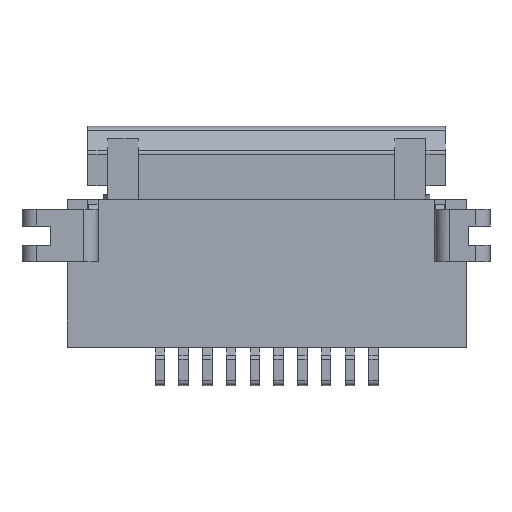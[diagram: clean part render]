
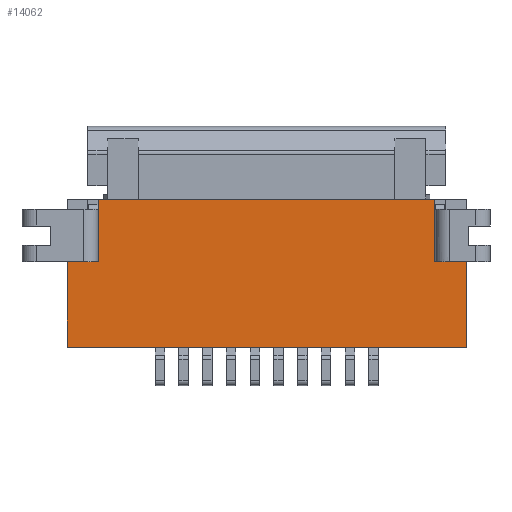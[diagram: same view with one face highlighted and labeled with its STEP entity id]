
A CAD part, front view. The second image highlights one B-rep face of the part: STEP entity #14062.
In plain terms, the highlighted planar face has unit normal (0, -1, 0).
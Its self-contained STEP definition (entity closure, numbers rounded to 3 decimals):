
#28=DIRECTION('',(-1.,0.,0.));
#29=VECTOR('',#28,0.516);
#30=CARTESIAN_POINT('',(0.,-1.55,-1.3));
#31=LINE('',#30,#29);
#32=DIRECTION('',(0.,0.,-1.));
#33=VECTOR('',#32,1.8);
#34=CARTESIAN_POINT('',(0.,-1.55,-1.3));
#35=LINE('',#34,#33);
#36=DIRECTION('',(-1.,0.,0.));
#37=VECTOR('',#36,8.4);
#38=CARTESIAN_POINT('',(0.,-1.55,-3.1));
#39=LINE('',#38,#37);
#40=DIRECTION('',(0.,0.,1.));
#41=VECTOR('',#40,1.8);
#42=CARTESIAN_POINT('',(-8.4,-1.55,-3.1));
#43=LINE('',#42,#41);
#44=DIRECTION('',(1.,0.,0.));
#45=VECTOR('',#44,0.35);
#46=CARTESIAN_POINT('',(-8.4,-1.55,-1.3));
#47=LINE('',#46,#45);
#48=DIRECTION('',(1.,0.,0.));
#49=VECTOR('',#48,0.166);
#50=CARTESIAN_POINT('',(-8.05,-1.55,-1.3));
#51=LINE('',#50,#49);
#52=DIRECTION('',(1.,0.,0.));
#53=VECTOR('',#52,0.154);
#54=CARTESIAN_POINT('',(-7.884,-1.55,-1.3));
#55=LINE('',#54,#53);
#56=DIRECTION('',(0.,0.,1.));
#57=VECTOR('',#56,1.3);
#58=CARTESIAN_POINT('',(-7.73,-1.55,-1.3));
#59=LINE('',#58,#57);
#60=DIRECTION('',(1.,0.,0.));
#61=VECTOR('',#60,7.06);
#62=CARTESIAN_POINT('',(-7.73,-1.55,0.));
#63=LINE('',#62,#61);
#64=DIRECTION('',(0.,0.,-1.));
#65=VECTOR('',#64,1.3);
#66=CARTESIAN_POINT('',(-0.67,-1.55,0.));
#67=LINE('',#66,#65);
#68=DIRECTION('',(1.,0.,0.));
#69=VECTOR('',#68,0.154);
#70=CARTESIAN_POINT('',(-0.67,-1.55,-1.3));
#71=LINE('',#70,#69);
#10674=CARTESIAN_POINT('',(0.,-1.55,-3.1));
#10675=VERTEX_POINT('',#10674);
#10681=CARTESIAN_POINT('',(-0.67,-1.55,-1.3));
#10683=VERTEX_POINT('',#10681);
#10688=CARTESIAN_POINT('',(-7.73,-1.55,-1.3));
#10690=VERTEX_POINT('',#10688);
#10724=CARTESIAN_POINT('',(-0.67,-1.55,0.));
#10725=VERTEX_POINT('',#10724);
#10744=CARTESIAN_POINT('',(-7.73,-1.55,0.));
#10745=VERTEX_POINT('',#10744);
#11232=CARTESIAN_POINT('',(-8.4,-1.55,-3.1));
#11233=VERTEX_POINT('',#11232);
#13917=CARTESIAN_POINT('',(-7.884,-1.55,-1.3));
#13919=VERTEX_POINT('',#13917);
#13938=CARTESIAN_POINT('',(-8.4,-1.55,-1.3));
#13939=VERTEX_POINT('',#13938);
#13940=CARTESIAN_POINT('',(-8.05,-1.55,-1.3));
#13941=VERTEX_POINT('',#13940);
#13942=CARTESIAN_POINT('',(0.,-1.55,-1.3));
#13944=VERTEX_POINT('',#13942);
#13951=CARTESIAN_POINT('',(-0.516,-1.55,-1.3));
#13953=VERTEX_POINT('',#13951);
#14035=CARTESIAN_POINT('',(-4.2,-1.55,-1.55));
#14036=DIRECTION('',(0.,1.,0.));
#14037=DIRECTION('',(0.,0.,1.));
#14038=AXIS2_PLACEMENT_3D('',#14035,#14036,#14037);
#14039=PLANE('',#14038);
#14040=ORIENTED_EDGE('',*,*,#13998,.F.);
#14041=ORIENTED_EDGE('',*,*,#13987,.T.);
#14043=ORIENTED_EDGE('',*,*,#14042,.T.);
#14045=ORIENTED_EDGE('',*,*,#14044,.T.);
#14047=ORIENTED_EDGE('',*,*,#14046,.T.);
#14049=ORIENTED_EDGE('',*,*,#14048,.T.);
#14051=ORIENTED_EDGE('',*,*,#14050,.T.);
#14053=ORIENTED_EDGE('',*,*,#14052,.T.);
#14055=ORIENTED_EDGE('',*,*,#14054,.T.);
#14057=ORIENTED_EDGE('',*,*,#14056,.T.);
#14059=ORIENTED_EDGE('',*,*,#14058,.T.);
#14060=EDGE_LOOP('',(#14040,#14041,#14043,#14045,#14047,#14049,#14051,#14053,
#14055,#14057,#14059));
#14061=FACE_OUTER_BOUND('',#14060,.F.);
#14062=ADVANCED_FACE('',(#14061),#14039,.F.);
#13987=EDGE_CURVE('',#13944,#10675,#35,.T.);
#13998=EDGE_CURVE('',#13944,#13953,#31,.T.);
#14042=EDGE_CURVE('',#10675,#11233,#39,.T.);
#14044=EDGE_CURVE('',#11233,#13939,#43,.T.);
#14046=EDGE_CURVE('',#13939,#13941,#47,.T.);
#14048=EDGE_CURVE('',#13941,#13919,#51,.T.);
#14050=EDGE_CURVE('',#13919,#10690,#55,.T.);
#14052=EDGE_CURVE('',#10690,#10745,#59,.T.);
#14054=EDGE_CURVE('',#10745,#10725,#63,.T.);
#14056=EDGE_CURVE('',#10725,#10683,#67,.T.);
#14058=EDGE_CURVE('',#10683,#13953,#71,.T.);
